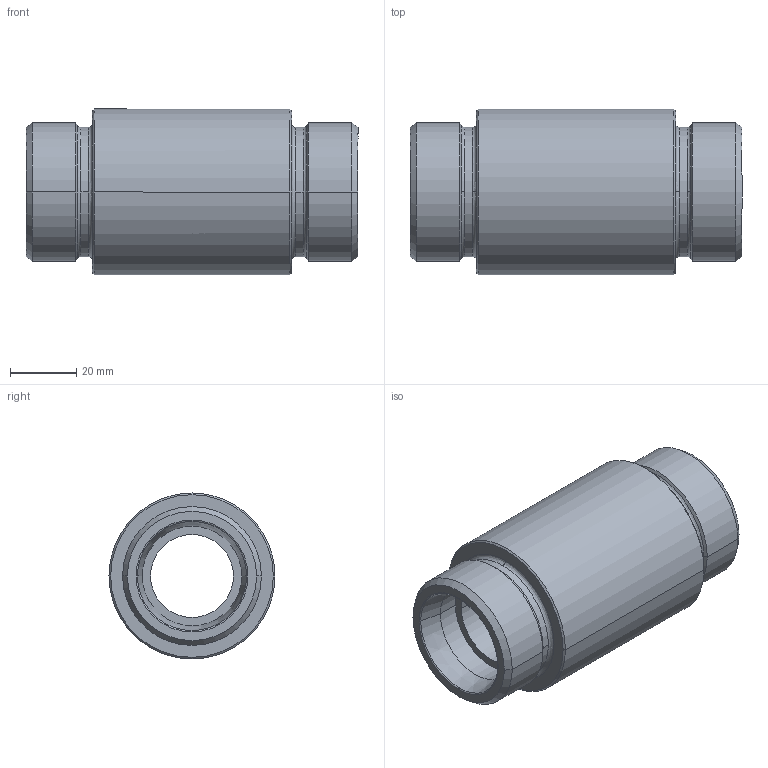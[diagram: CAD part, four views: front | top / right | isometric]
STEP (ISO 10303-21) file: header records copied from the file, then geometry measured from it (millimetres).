
FILE_DESCRIPTION((''),'2;1');
FILE_NAME('105622.stp','2007-10-31T14:06:58',(''),(''),'AutoCAD STEP 2000i','AutoCAD 2000i',', , ');
FILE_SCHEMA(('CONFIG_CONTROL_DESIGN'));
Length unit declared in the file: millimetre
Products named in the file (2): 105622.0; BARRA TONDA#0
Assembly tree (1 placements, depth 2):
  105622.0
    BARRA TONDA#0
Bounding box: 100 x 50 x 50 mm (x, y, z)
Volume: 114698.4 mm3; surface area: 25673 mm2
Topology: 1 solids, 1 shells, 50 faces, 120 edges, 76 vertices
Faces by surface type: cone 16, cylinder 16, bspline 8, plane 6, torus 4
Entity records: 1929 total; most frequent: CARTESIAN_POINT 600, DIRECTION 296, ORIENTED_EDGE 240, AXIS2_PLACEMENT_3D 132, EDGE_CURVE 120, CIRCLE 88, VERTEX_POINT 76, EDGE_LOOP 56
